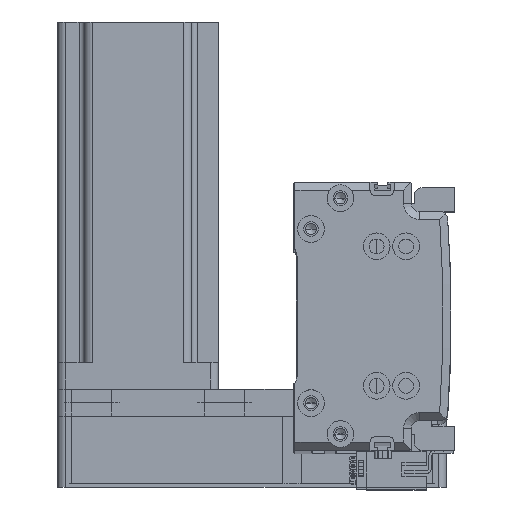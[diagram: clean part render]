
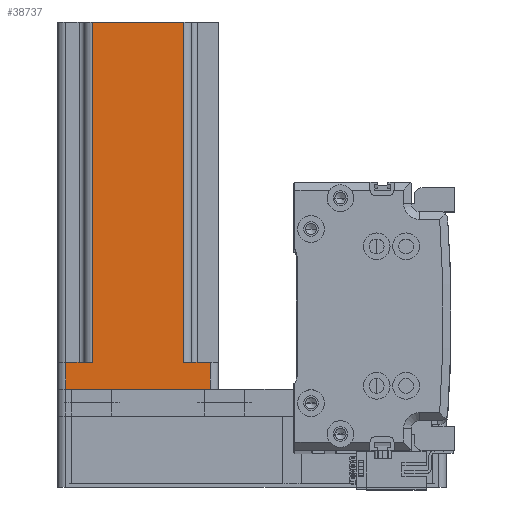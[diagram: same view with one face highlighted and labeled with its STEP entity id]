
A CAD part, top view. The second image highlights one B-rep face of the part: STEP entity #38737.
In plain terms, the highlighted planar face has unit normal (0, 0, 1) as drawn and (0, 1, 0) by its records, which use the part's own axes.
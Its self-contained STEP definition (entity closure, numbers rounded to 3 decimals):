
#499 = DIRECTION ( 'NONE',  ( 0., 0., 1. ) ) ;
#2215 = CARTESIAN_POINT ( 'NONE',  ( 30., 30., 0. ) ) ;
#2304 = EDGE_CURVE ( 'NONE', #33405, #29061, #13672, .T. ) ;
#2923 = VECTOR ( 'NONE', #47550, 1000. ) ;
#2942 = VERTEX_POINT ( 'NONE', #38718 ) ;
#3141 = VECTOR ( 'NONE', #29104, 1000. ) ;
#3250 = CARTESIAN_POINT ( 'NONE',  ( 17., 30., 137. ) ) ;
#3731 = EDGE_LOOP ( 'NONE', ( #38224, #38402, #45159, #10846, #25117, #22015, #32680, #37513 ) ) ;
#4446 = CARTESIAN_POINT ( 'NONE',  ( 17., 30., 10. ) ) ;
#4661 = LINE ( 'NONE', #9113, #44359 ) ;
#5219 = LINE ( 'NONE', #30806, #42518 ) ;
#6596 = FACE_OUTER_BOUND ( 'NONE', #3731, .T. ) ;
#7405 = VERTEX_POINT ( 'NONE', #40359 ) ;
#8231 = CARTESIAN_POINT ( 'NONE',  ( -20., 30., 10. ) ) ;
#8336 = EDGE_CURVE ( 'NONE', #2942, #43348, #32965, .T. ) ;
#9113 = CARTESIAN_POINT ( 'NONE',  ( -27., 30., 137. ) ) ;
#9503 = DIRECTION ( 'NONE',  ( 0., -1., 0. ) ) ;
#10846 = ORIENTED_EDGE ( 'NONE', *, *, #28957, .T. ) ;
#13226 = PLANE ( 'NONE',  #22900 ) ;
#13672 = LINE ( 'NONE', #33109, #43144 ) ;
#14257 = LINE ( 'NONE', #8231, #42537 ) ;
#14447 = VERTEX_POINT ( 'NONE', #3250 ) ;
#15758 = EDGE_CURVE ( 'NONE', #14447, #43348, #39744, .T. ) ;
#15945 = DIRECTION ( 'NONE',  ( 1., 0., 0. ) ) ;
#17825 = DIRECTION ( 'NONE',  ( -1., 0., 0. ) ) ;
#22015 = ORIENTED_EDGE ( 'NONE', *, *, #25568, .T. ) ;
#22709 = VECTOR ( 'NONE', #499, 1000. ) ;
#22900 = AXIS2_PLACEMENT_3D ( 'NONE', #32529, #9503, #36407 ) ;
#23242 = CARTESIAN_POINT ( 'NONE',  ( 27., 30., 0. ) ) ;
#24270 = DIRECTION ( 'NONE',  ( 0., 0., -1. ) ) ;
#25117 = ORIENTED_EDGE ( 'NONE', *, *, #2304, .F. ) ;
#25568 = EDGE_CURVE ( 'NONE', #33405, #41892, #49691, .T. ) ;
#28103 = CARTESIAN_POINT ( 'NONE',  ( 27., 30., 10. ) ) ;
#28291 = CARTESIAN_POINT ( 'NONE',  ( -17., 30., 137. ) ) ;
#28957 = EDGE_CURVE ( 'NONE', #14447, #29061, #5219, .T. ) ;
#29061 = VERTEX_POINT ( 'NONE', #4446 ) ;
#29104 = DIRECTION ( 'NONE',  ( -1., 0., 0. ) ) ;
#30806 = CARTESIAN_POINT ( 'NONE',  ( 17., 30., 137. ) ) ;
#31124 = CARTESIAN_POINT ( 'NONE',  ( -17., 30., 137. ) ) ;
#32529 = CARTESIAN_POINT ( 'NONE',  ( 30., 30., 137. ) ) ;
#32629 = LINE ( 'NONE', #2215, #3141 ) ;
#32680 = ORIENTED_EDGE ( 'NONE', *, *, #43478, .T. ) ;
#32965 = LINE ( 'NONE', #31124, #22709 ) ;
#33109 = CARTESIAN_POINT ( 'NONE',  ( 20., 30., 10. ) ) ;
#33405 = VERTEX_POINT ( 'NONE', #28103 ) ;
#36407 = DIRECTION ( 'NONE',  ( 1., 0., 0. ) ) ;
#37513 = ORIENTED_EDGE ( 'NONE', *, *, #46256, .T. ) ;
#38224 = ORIENTED_EDGE ( 'NONE', *, *, #40102, .T. ) ;
#38272 = VECTOR ( 'NONE', #24270, 1000. ) ;
#38402 = ORIENTED_EDGE ( 'NONE', *, *, #8336, .T. ) ;
#38421 = CARTESIAN_POINT ( 'NONE',  ( -27., 30., 0. ) ) ;
#38718 = CARTESIAN_POINT ( 'NONE',  ( -17., 30., 10. ) ) ;
#38737 = ADVANCED_FACE ( 'NONE', ( #6596 ), #13226, .F. ) ;
#39744 = LINE ( 'NONE', #43519, #2923 ) ;
#40102 = EDGE_CURVE ( 'NONE', #7405, #2942, #14257, .T. ) ;
#40359 = CARTESIAN_POINT ( 'NONE',  ( -27., 30., 10. ) ) ;
#41366 = VERTEX_POINT ( 'NONE', #38421 ) ;
#41892 = VERTEX_POINT ( 'NONE', #23242 ) ;
#42518 = VECTOR ( 'NONE', #46140, 1000. ) ;
#42537 = VECTOR ( 'NONE', #15945, 1000. ) ;
#43144 = VECTOR ( 'NONE', #17825, 1000. ) ;
#43348 = VERTEX_POINT ( 'NONE', #28291 ) ;
#43456 = CARTESIAN_POINT ( 'NONE',  ( 27., 30., 137. ) ) ;
#43478 = EDGE_CURVE ( 'NONE', #41892, #41366, #32629, .T. ) ;
#43519 = CARTESIAN_POINT ( 'NONE',  ( 30., 30., 137. ) ) ;
#43749 = DIRECTION ( 'NONE',  ( 0., 0., 1. ) ) ;
#44359 = VECTOR ( 'NONE', #43749, 1000. ) ;
#45159 = ORIENTED_EDGE ( 'NONE', *, *, #15758, .F. ) ;
#46140 = DIRECTION ( 'NONE',  ( 0., 0., -1. ) ) ;
#46256 = EDGE_CURVE ( 'NONE', #41366, #7405, #4661, .T. ) ;
#47550 = DIRECTION ( 'NONE',  ( -1., 0., 0. ) ) ;
#49691 = LINE ( 'NONE', #43456, #38272 ) ;
